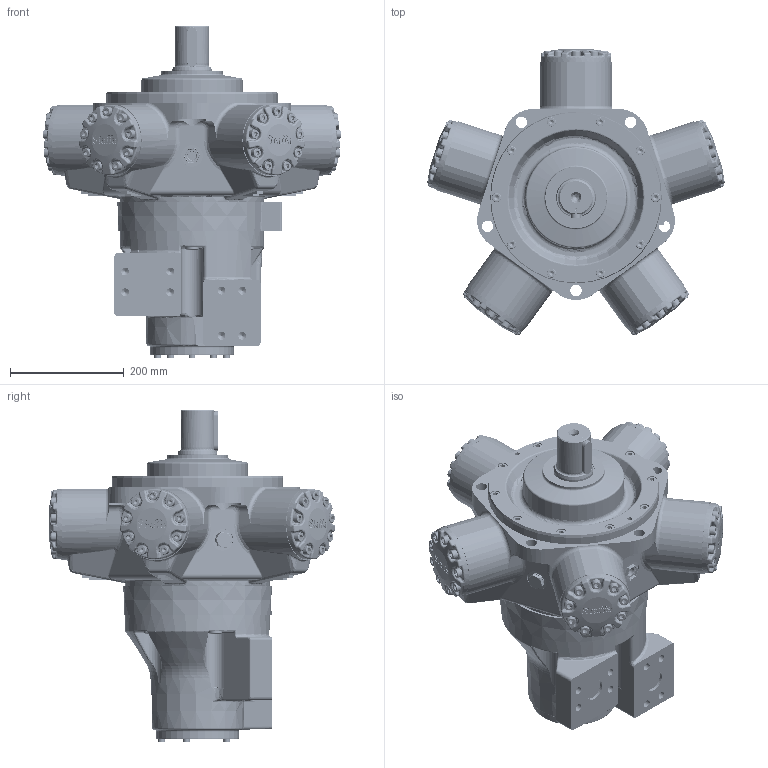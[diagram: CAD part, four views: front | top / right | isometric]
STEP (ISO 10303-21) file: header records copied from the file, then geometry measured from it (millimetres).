
FILE_DESCRIPTION(/* description */ (''),/* implementation_level */ '2;1');
FILE_NAME(/* name */ 'HMC080_P_FM4_X_82.stp',/* time_stamp */ '2026-01-22T16:44:37Z',/* author */ ('ccallanga'),/* organization */ (''),/* preprocessor_version */ 'ST-DEVELOPER v20',/* originating_system */ 'Autodesk Inventor 2024',/* authorisation */ '');
FILE_SCHEMA (('AUTOMOTIVE_DESIGN { 1 0 10303 214 3 1 1 }'));
Products named in the file (1): 017754 HMC080 WEBSITE ASSEMBLY_Simplify_1
Bounding box: 524.44 x 502.42 x 583.7 mm (x, y, z)
Surface area: 1090798.4 mm2 (no closed solid volume)
Topology: 0 solids, 87 shells, 4824 faces, 12069 edges, 7169 vertices
Faces by surface type: bspline 1676, plane 1289, cylinder 1017, torus 531, sphere 187, cone 124
Full cylindrical faces by diameter (mm): 2.2 x4, 8.376 x2, 11.328 x1, 11.445 x2, 11.913 x5, 12.7 x5, 13.835 x8, 16 x48, 16.5 x45, 16.51 x1, 17 x10, 20 x5, 23.825 x5, 25.4 x5, 26.92 x2, 38.1 x5, 60.002 x1, 69.825 x1, 73.914 x1, 107.95 x1, 146 x1, 146.05 x1, 177.8 x1, 254 x1, 301.535 x1
Entity records: 202291 total; most frequent: CARTESIAN_POINT 99964, ORIENTED_EDGE 22828, DIRECTION 17982, EDGE_CURVE 11846, VERTEX_POINT 7169, AXIS2_PLACEMENT_3D 7065, EDGE_LOOP 5210, FACE_OUTER_BOUND 4824
